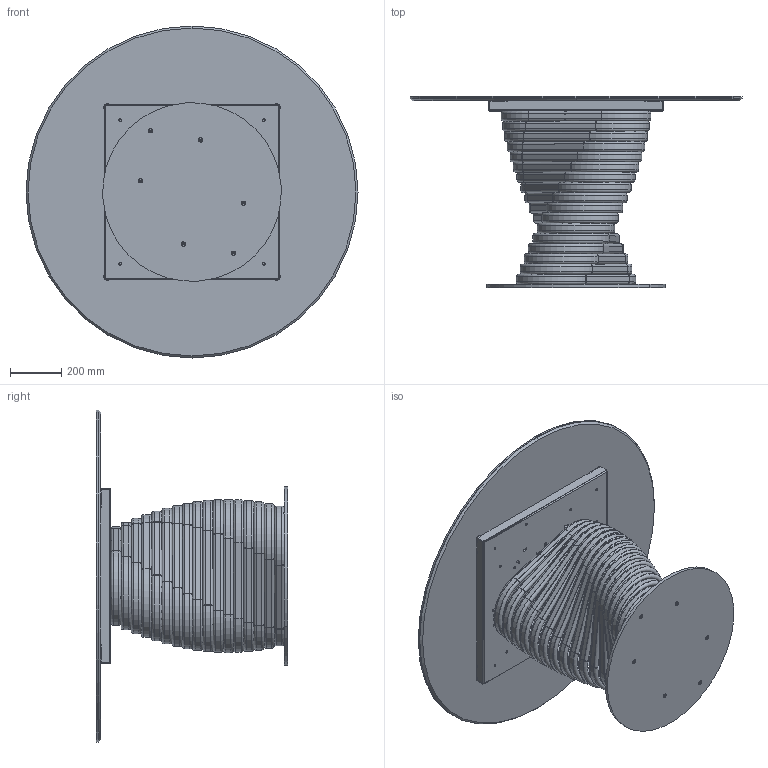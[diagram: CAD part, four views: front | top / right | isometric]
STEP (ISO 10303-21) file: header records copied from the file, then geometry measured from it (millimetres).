
FILE_DESCRIPTION (( 'STEP AP203' ), '1' );
FILE_NAME ('RO05C.STEP', '2024-08-07T13:09:15', ( '' ), ( '' ), 'SwSTEP 2.0', 'SolidWorks 2022', '' );
FILE_SCHEMA (( 'CONFIG_CONTROL_DESIGN' ));
Length unit declared in the file: millimetre
Products named in the file (15): ROBX00000INF-00-Anello rotolo INFERIORE_Default<A macchina>; TTAV0801 TELAIO UNIVERSALE TONDO-PIASTRINA; ROBX00000-00-ROTOLO BASE 17 ANELLI; ROBX00000SUP-00-Anello rotolo SUPERIORE_Default<A macchina>; RO05C; TTAV0801-02-TELAIO UNIVERSALE TONDO-VASSOIO; M8xXXmm_hex_M8X20mm; K1XCMXX-00-Piani Rotondi in ceramica_D.1300; ROBX00000MED-00-Anello rotolo MEDIO_Default<A macchina>; ROB200000-00-PIASTRA BASE_Ø70cm; TTAV0801-02-TELAIO UNIVERSALE TONDO; M8xXXmm_M8x20mm; COLLO TELAIO UNIVERSALE TTAV0801 CON FERRAMENTA_MTG TOP CRISTALLO VERNICIATO-CERAMICA; 434070-00-PIEDINO TPV GOMMA NERO D. 30x8max18_filo estetico; rondella M8_8X24
Assembly tree (45 placements, depth 4):
  RO05C
    ROB200000-00-PIASTRA BASE_Ø70cm
    ROBX00000-00-ROTOLO BASE 17 ANELLI
      ROBX00000INF-00-Anello rotolo INFERIORE_Default<A macchina>
      ROBX00000MED-00-Anello rotolo MEDIO_Default<A macchina>  x15
      ROBX00000SUP-00-Anello rotolo SUPERIORE_Default<A macchina>
    M8xXXmm_hex_M8X20mm  x6
    COLLO TELAIO UNIVERSALE TTAV0801 CON FERRAMENTA_MTG TOP CRISTALLO VERNICIATO-CERAMICA
      TTAV0801-02-TELAIO UNIVERSALE TONDO
        TTAV0801-02-TELAIO UNIVERSALE TONDO-VASSOIO
        TTAV0801 TELAIO UNIVERSALE TONDO-PIASTRINA  x4
      434070-00-PIEDINO TPV GOMMA NERO D. 30x8max18_filo estetico  x4
    rondella M8_8X24  x4
    M8xXXmm_M8x20mm  x4
    K1XCMXX-00-Piani Rotondi in ceramica_D.1300
Bounding box: 1300 x 748 x 1300 mm (x, y, z)
Volume: 32933974.9 mm3; surface area: 12240664.6 mm2
Topology: 98 solids, 98 shells, 1638 faces, 4010 edges, 2548 vertices
Faces by surface type: plane 696, cylinder 628, torus 212, cone 102
Entity records: 22675 total; most frequent: CARTESIAN_POINT 5030, DIRECTION 3312, ORIENTED_EDGE 3090, EDGE_CURVE 1545, AXIS2_PLACEMENT_3D 1221, VERTEX_POINT 995, VECTOR 870, LINE 870
